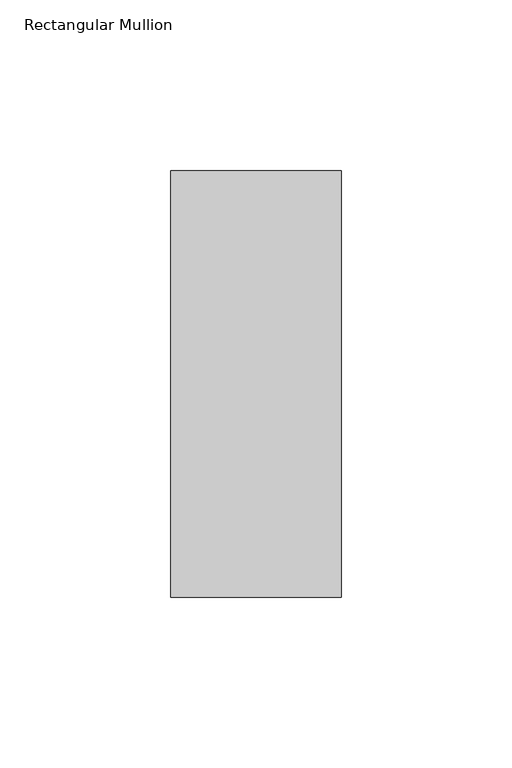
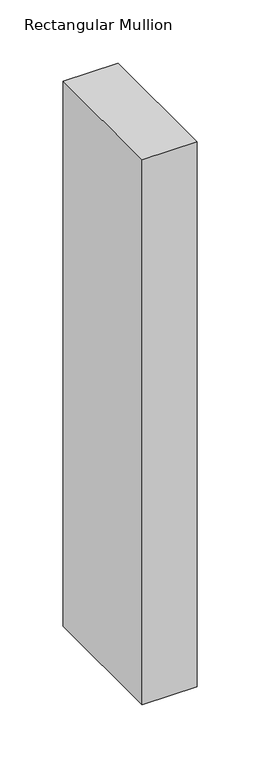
"""IFC4 building model written with IfcOpenShell, lengths in millimetres: member geometry, Rectangular Mullion : DucoSun Cubic Design profile 50x125 for louvre 500."""

from ifc_helpers import new_model, si_unit, frame, origin, place, context, project, spatial, polyline, outline, extrude, source, transform, mapped, element, save


def rectangular_mullion_e26307d8(model_context):
    return source(origin(), model_context, "Body", "SweptSolid", [
        extrude(outline(polyline([(-50.0, 187.5), (-50.0, 312.5), (0.0, 312.5), (0.0, 187.5), (-50.0, 187.5)])), frame((0.0, 0.0, -525.5000002), z_axis=(0.0, 0.0, 1.0), x_axis=(1.0, 0.0, 0.0)), (0.0, 0.0, 1.0), 525.5000002),
    ])


if __name__ == "__main__":
    model = new_model("IFC4")
    model_context = context("Model", 3, world=origin())
    ifc_project = project(units=[si_unit("LENGTHUNIT", "METRE", prefix="MILLI")], contexts=[model_context])
    site = spatial("IfcSite", under=ifc_project)
    building = spatial("IfcBuilding", under=site)
    placement = place(None, origin())
    rectangular_mullion_shape = rectangular_mullion_e26307d8(model_context)
    element("IfcMember", 1, ObjectType="Rectangular Mullion : DucoSun Cubic Design profile 50x125 for louvre 500", at=placement, inside=building, context=model_context, shape_type="MappedRepresentation", body=[
        mapped(rectangular_mullion_shape, transform((0.0, 0.0, 0.0), x_axis=(1.0, 0.0, 0.0), y_axis=(0.0, 1.0, 0.0), z_axis=(0.0, 0.0, 1.0))),
    ])
    save(model, "model.ifc")
